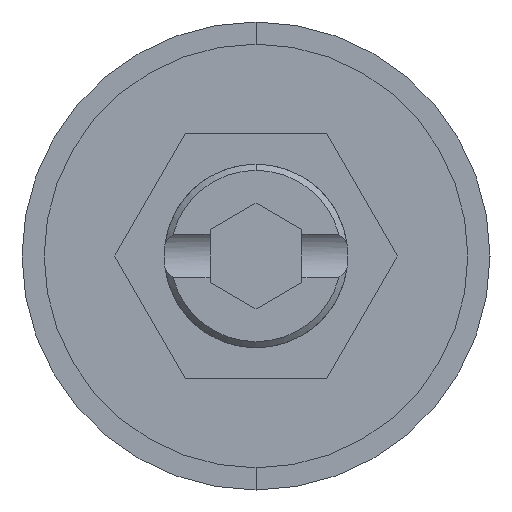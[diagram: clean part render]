
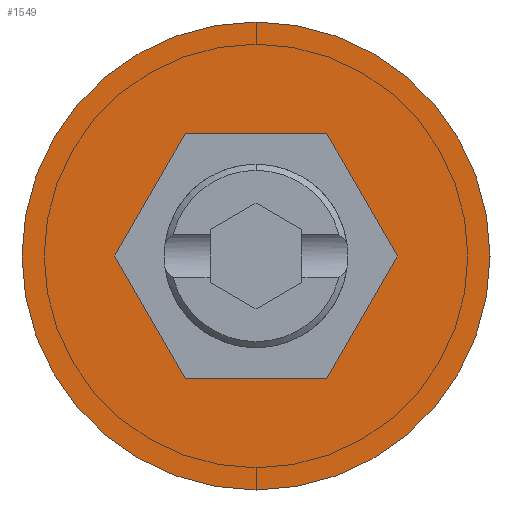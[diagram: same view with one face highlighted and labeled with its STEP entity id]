
A CAD part, front view. The second image highlights one B-rep face of the part: STEP entity #1549.
In plain terms, the highlighted planar face has unit normal (0, -1, 0).
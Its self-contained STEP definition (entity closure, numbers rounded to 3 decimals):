
#79 = DIRECTION ( 'NONE',  ( -1., 0., 0. ) ) ;
#88 = DIRECTION ( 'NONE',  ( 0., -1., 0. ) ) ;
#133 = DIRECTION ( 'NONE',  ( 1., 0., 0. ) ) ;
#141 = CIRCLE ( 'NONE', #559, 7.65 ) ;
#151 = DIRECTION ( 'NONE',  ( 0., 0., -1. ) ) ;
#182 = EDGE_CURVE ( 'NONE', #844, #950, #1239, .T. ) ;
#218 = CARTESIAN_POINT ( 'NONE',  ( -2.309, 0., -4. ) ) ;
#227 = CARTESIAN_POINT ( 'NONE',  ( 2.309, 0., 4. ) ) ;
#244 = CARTESIAN_POINT ( 'NONE',  ( 2.309, 0., 4. ) ) ;
#291 = EDGE_LOOP ( 'NONE', ( #1763, #1665, #971, #1614, #1559, #1148 ) ) ;
#376 = VECTOR ( 'NONE', #2076, 1000. ) ;
#429 = EDGE_CURVE ( 'NONE', #1529, #1917, #497, .T. ) ;
#479 = LINE ( 'NONE', #227, #897 ) ;
#497 = CIRCLE ( 'NONE', #1629, 7.65 ) ;
#559 = AXIS2_PLACEMENT_3D ( 'NONE', #783, #790, #817 ) ;
#599 = CARTESIAN_POINT ( 'NONE',  ( 0., 0., -7.65 ) ) ;
#703 = CARTESIAN_POINT ( 'NONE',  ( -2.309, 0., -4. ) ) ;
#711 = FACE_BOUND ( 'NONE', #291, .T. ) ;
#718 = CARTESIAN_POINT ( 'NONE',  ( -2.309, 0., 4. ) ) ;
#738 = DIRECTION ( 'NONE',  ( -0.5, 0., -0.866 ) ) ;
#750 = VERTEX_POINT ( 'NONE', #1565 ) ;
#771 = VECTOR ( 'NONE', #1859, 1000. ) ;
#783 = CARTESIAN_POINT ( 'NONE',  ( 0., 0., 0. ) ) ;
#790 = DIRECTION ( 'NONE',  ( 0., -1., 0. ) ) ;
#817 = DIRECTION ( 'NONE',  ( 0., 0., -1. ) ) ;
#818 = EDGE_CURVE ( 'NONE', #894, #750, #2139, .T. ) ;
#844 = VERTEX_POINT ( 'NONE', #218 ) ;
#860 = LINE ( 'NONE', #1758, #376 ) ;
#894 = VERTEX_POINT ( 'NONE', #1617 ) ;
#897 = VECTOR ( 'NONE', #79, 1000. ) ;
#950 = VERTEX_POINT ( 'NONE', #2015 ) ;
#971 = ORIENTED_EDGE ( 'NONE', *, *, #818, .F. ) ;
#1000 = PLANE ( 'NONE',  #1613 ) ;
#1012 = VECTOR ( 'NONE', #738, 1000. ) ;
#1148 = ORIENTED_EDGE ( 'NONE', *, *, #1420, .F. ) ;
#1188 = VECTOR ( 'NONE', #133, 1000. ) ;
#1219 = CARTESIAN_POINT ( 'NONE',  ( 4.619, 0., 0. ) ) ;
#1232 = LINE ( 'NONE', #1703, #771 ) ;
#1239 = LINE ( 'NONE', #703, #1188 ) ;
#1299 = CARTESIAN_POINT ( 'NONE',  ( 2.309, 0., -4. ) ) ;
#1306 = DIRECTION ( 'NONE',  ( 0.5, 0., 0.866 ) ) ;
#1403 = VECTOR ( 'NONE', #1306, 1000. ) ;
#1420 = EDGE_CURVE ( 'NONE', #950, #1707, #1781, .T. ) ;
#1487 = EDGE_CURVE ( 'NONE', #1707, #1545, #860, .T. ) ;
#1512 = EDGE_LOOP ( 'NONE', ( #1939, #1862 ) ) ;
#1529 = VERTEX_POINT ( 'NONE', #1962 ) ;
#1545 = VERTEX_POINT ( 'NONE', #244 ) ;
#1549 = ADVANCED_FACE ( 'NONE', ( #711, #2044 ), #1000, .T. ) ;
#1559 = ORIENTED_EDGE ( 'NONE', *, *, #1487, .F. ) ;
#1565 = CARTESIAN_POINT ( 'NONE',  ( -4.619, 0., 0. ) ) ;
#1580 = CARTESIAN_POINT ( 'NONE',  ( 0., 0., 0. ) ) ;
#1591 = DIRECTION ( 'NONE',  ( 0., -1., 0. ) ) ;
#1604 = DIRECTION ( 'NONE',  ( 0., 0., -1. ) ) ;
#1613 = AXIS2_PLACEMENT_3D ( 'NONE', #1580, #1591, #1604 ) ;
#1614 = ORIENTED_EDGE ( 'NONE', *, *, #2045, .F. ) ;
#1617 = CARTESIAN_POINT ( 'NONE',  ( -2.309, 0., 4. ) ) ;
#1629 = AXIS2_PLACEMENT_3D ( 'NONE', #2167, #88, #151 ) ;
#1662 = EDGE_CURVE ( 'NONE', #1917, #1529, #141, .T. ) ;
#1665 = ORIENTED_EDGE ( 'NONE', *, *, #1804, .F. ) ;
#1703 = CARTESIAN_POINT ( 'NONE',  ( -4.619, 0., 0. ) ) ;
#1707 = VERTEX_POINT ( 'NONE', #1219 ) ;
#1758 = CARTESIAN_POINT ( 'NONE',  ( 4.619, 0., 0. ) ) ;
#1763 = ORIENTED_EDGE ( 'NONE', *, *, #182, .F. ) ;
#1781 = LINE ( 'NONE', #1299, #1403 ) ;
#1804 = EDGE_CURVE ( 'NONE', #750, #844, #1232, .T. ) ;
#1859 = DIRECTION ( 'NONE',  ( 0.5, 0., -0.866 ) ) ;
#1862 = ORIENTED_EDGE ( 'NONE', *, *, #429, .T. ) ;
#1917 = VERTEX_POINT ( 'NONE', #599 ) ;
#1939 = ORIENTED_EDGE ( 'NONE', *, *, #1662, .T. ) ;
#1962 = CARTESIAN_POINT ( 'NONE',  ( 0., 0., 7.65 ) ) ;
#2015 = CARTESIAN_POINT ( 'NONE',  ( 2.309, 0., -4. ) ) ;
#2044 = FACE_OUTER_BOUND ( 'NONE', #1512, .T. ) ;
#2045 = EDGE_CURVE ( 'NONE', #1545, #894, #479, .T. ) ;
#2076 = DIRECTION ( 'NONE',  ( -0.5, 0., 0.866 ) ) ;
#2139 = LINE ( 'NONE', #718, #1012 ) ;
#2167 = CARTESIAN_POINT ( 'NONE',  ( 0., 0., 0. ) ) ;
